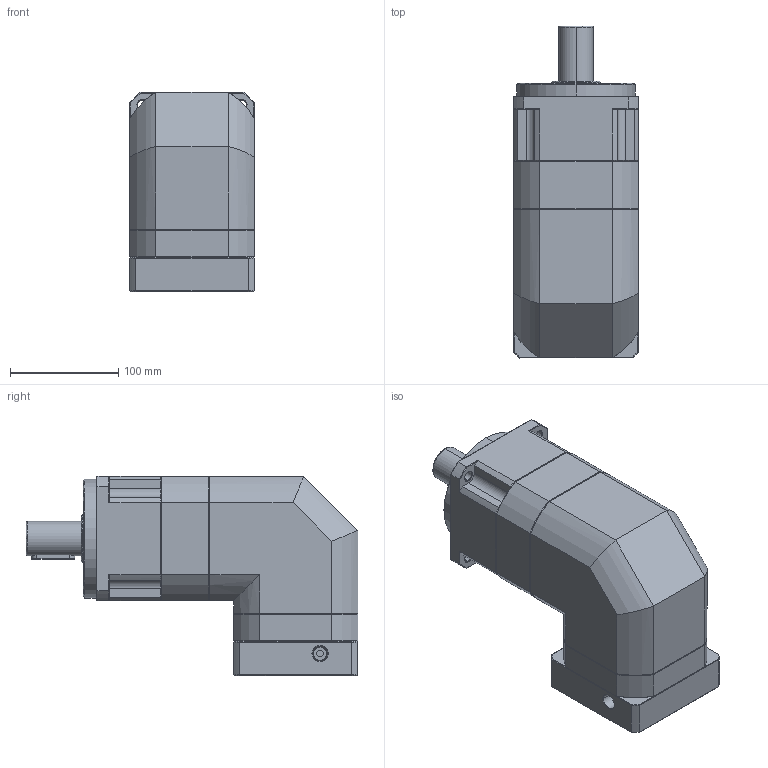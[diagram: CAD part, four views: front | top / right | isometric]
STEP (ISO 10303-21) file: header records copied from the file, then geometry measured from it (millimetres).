
FILE_DESCRIPTION (( 'STEP AP214' ), '1' );
FILE_NAME ('ZPBR115-D32-L2-P1-24-95-130-M8.step', '2024-06-29T08:08:24', ( 'Windows 蚚誧' ), ( 'Organization' ), 'SwSTEP 2.0', 'SolidWorks 2016', '' );
FILE_SCHEMA (( 'AUTOMOTIVE_DESIGN' ));
Length unit declared in the file: millimetre
Products named in the file (1): ZPBR115-D32-L2-P1-24-95-130-M8
Bounding box: 115 x 307 x 184.2 mm (x, y, z)
Surface area: 199043 mm2 (no closed solid volume)
Topology: 0 solids, 29 shells, 1847 faces, 4965 edges, 3177 vertices
Faces by surface type: plane 944, bspline 381, cone 286, cylinder 236
Full cylindrical faces by diameter (mm): 10.2 x1
Entity records: 99751 total; most frequent: CARTESIAN_POINT 49423, ORIENTED_EDGE 9900, DIRECTION 7602, EDGE_CURVE 4959, VECTOR 3204, LINE 3204, VERTEX_POINT 3175, AXIS2_PLACEMENT_3D 2199
